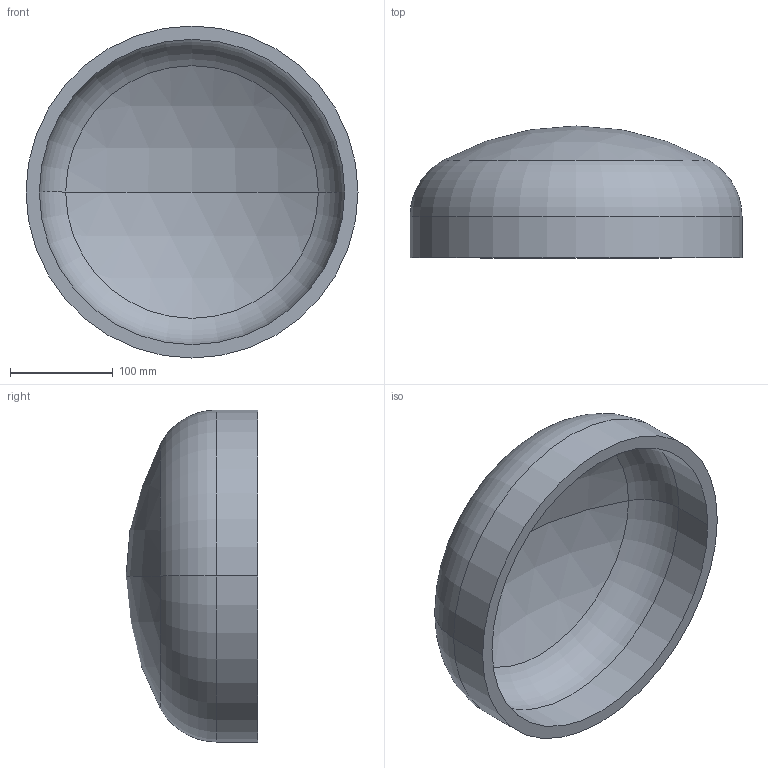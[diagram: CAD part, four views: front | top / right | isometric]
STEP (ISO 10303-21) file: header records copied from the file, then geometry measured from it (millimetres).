
FILE_DESCRIPTION (( 'STEP AP203' ), '1' );
FILE_NAME ('DIN 28013 Korbbogenform_-_Boden DIN 28013 - 323,9 x 40 - I - s=13.step', '2016-07-01T07:44:22', ( '' ), ( '' ), 'SwSTEP 2.0', 'SolidWorks 2013', '' );
FILE_SCHEMA (( 'CONFIG_CONTROL_DESIGN' ));
Length unit declared in the file: millimetre
Products named in the file (1): DIN 28013 Korbbogenform_-_Boden DIN 28013 - 323,9 x 40 - I - s=13
Bounding box: 323.9 x 128.6 x 323.9 mm (x, y, z)
Volume: 1918826.1 mm3; surface area: 308255.3 mm2
Topology: 1 solids, 1 shells, 13 faces, 24 edges, 14 vertices
Faces by surface type: torus 4, cylinder 4, sphere 4, plane 1
Entity records: 407 total; most frequent: DIRECTION 72, CARTESIAN_POINT 52, ORIENTED_EDGE 48, AXIS2_PLACEMENT_3D 34, EDGE_CURVE 24, CIRCLE 20, VERTEX_POINT 14, EDGE_LOOP 14
